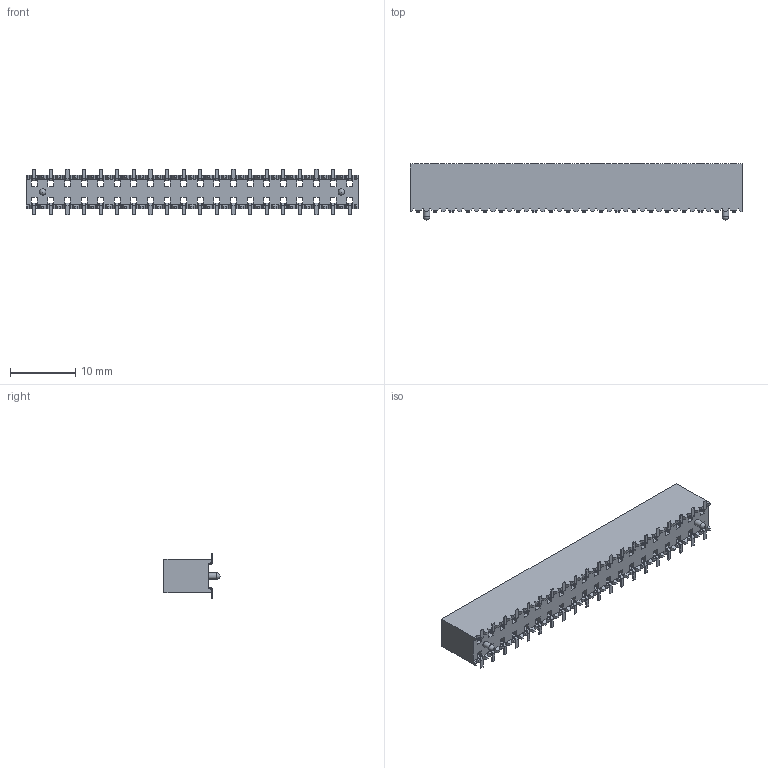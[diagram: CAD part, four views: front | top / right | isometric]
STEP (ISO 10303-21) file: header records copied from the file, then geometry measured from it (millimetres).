
FILE_DESCRIPTION(/* description */ ('STEP AP214'),/* implementation_level */ '2;1');
FILE_NAME(/* name */ 'SSM-120-S-DV-A-TR',/* time_stamp */ '2026-11-25T14:19:06+01:00',/* author */ ('License CC BY-ND 4.0'),/* organization */ ('CADENAS'),/* preprocessor_version */ 'ST-DEVELOPER v20',/* originating_system */ 'PARTsolutions',/* authorisation */ ' ');
FILE_SCHEMA (('AUTOMOTIVE_DESIGN {1 0 10303 214 3 1 1}'));
Length unit declared in the file: inch
Products named in the file (3): SSM-120-S-DV-A-TR; SSM-120-S-DV-A-TR_body; C-137-01-S20
Assembly tree (2 placements, depth 2):
  SSM-120-S-DV-A-TR
    SSM-120-S-DV-A-TR_body
    C-137-01-S20
Bounding box: 50.8 x 8.59 x 7.04 mm (x, y, z)
Volume: 1558.7 mm3; surface area: 2707.7 mm2
Topology: 2 solids, 2 shells, 969 faces, 2890 edges, 1926 vertices
Faces by surface type: plane 885, cylinder 82, sphere 2
Full cylindrical faces by diameter (mm): 0.965 x2
Entity records: 32284 total; most frequent: CARTESIAN_POINT 5780, ORIENTED_EDGE 5768, DIRECTION 4992, EDGE_CURVE 2884, LINE 2720, VECTOR 2720, VERTEX_POINT 1924, AXIS2_PLACEMENT_3D 1136
